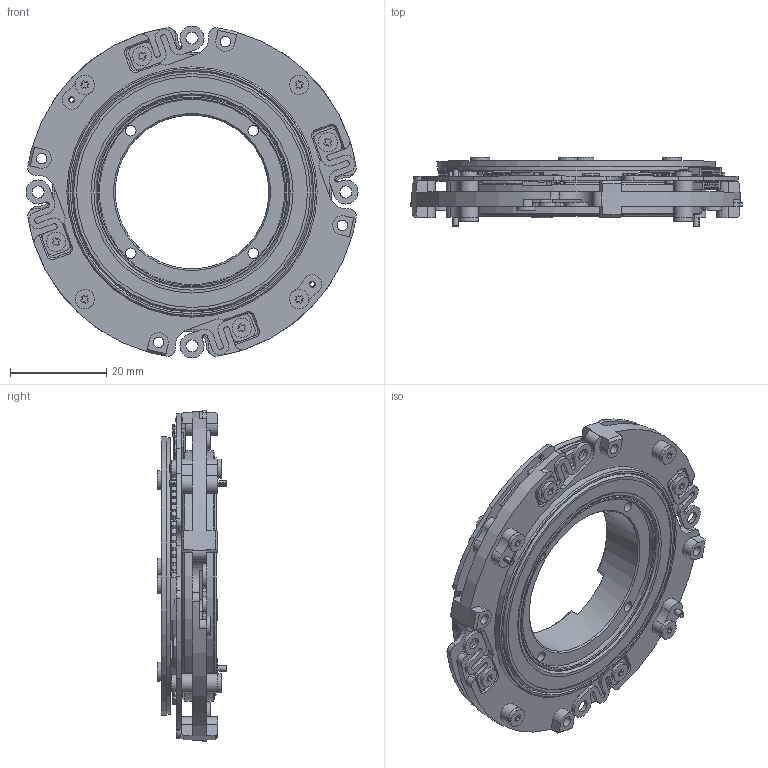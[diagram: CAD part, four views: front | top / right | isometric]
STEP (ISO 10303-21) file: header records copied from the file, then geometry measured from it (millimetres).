
FILE_DESCRIPTION(/* description */ (''),/* implementation_level */ '2;1');
FILE_NAME(/* name */ 'EAS-043B.stp',/* time_stamp */ '2025-01-14T16:37:33+08:00',/* author */ (''),/* organization */ (''),/* preprocessor_version */ 'ST-DEVELOPER v15',/* originating_system */ 'SIEMENS PLM Software NX 8.5',/* authorisation */ '');
FILE_SCHEMA (('AUTOMOTIVE_DESIGN { 1 0 10303 214 3 1 1 1 }'));
Products named in the file (1): LeiX2B0495AE0m2p
Bounding box: 69 x 14.45 x 69 mm (x, y, z)
Volume: 19328.8 mm3; surface area: 27394 mm2
Topology: 308 solids, 316 shells, 5297 faces, 13187 edges, 8377 vertices
Faces by surface type: plane 3763, cylinder 1202, sphere 228, cone 76, torus 20, bspline 8
Full cylindrical faces by diameter (mm): 0.55 x6, 1 x4, 1.6 x16, 2 x12, 2.2 x28, 2.5 x8, 2.6 x4, 3.2 x4, 3.5 x4, 4 x16, 32 x1, 38.5 x1, 40 x2, 42 x2, 43 x2, 43.8 x1, 45.5 x1, 48 x3, 50 x2, 52 x2, 57.5 x1, 58 x1
Entity records: 166523 total; most frequent: CARTESIAN_POINT 37629, DIRECTION 25846, ORIENTED_EDGE 25496, EDGE_CURVE 12748, LINE 10110, VECTOR 10110, VERTEX_POINT 8304, AXIS2_PLACEMENT_3D 7868
